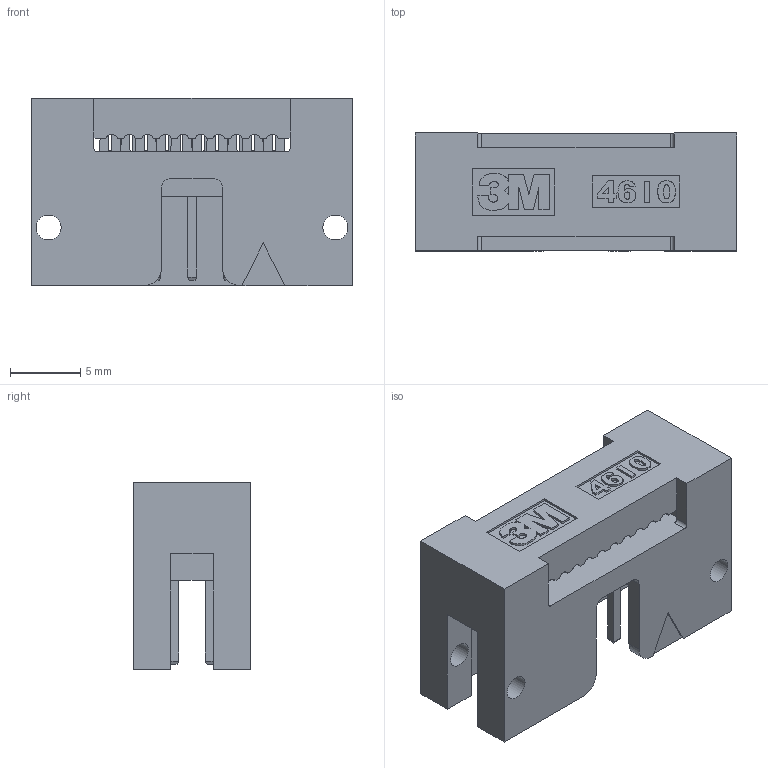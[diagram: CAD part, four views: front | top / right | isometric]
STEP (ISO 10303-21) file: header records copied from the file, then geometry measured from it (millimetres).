
FILE_DESCRIPTION(/* description */ (''),/* implementation_level */ '2;1');
FILE_NAME(/* name */ '4610-6051',/* time_stamp */ '2007-08-01T09:30:04-05:00',/* author */ (''),/* organization */ (''),/* preprocessor_version */ 'ST-DEVELOPER v9',/* originating_system */ 'UGS - NX 3.0',/* authorisation */ '');
FILE_SCHEMA (('CONFIG_CONTROL_DESIGN'));
Length unit declared in the file: inch
Products named in the file (1): a0p71DEB3hud
Bounding box: 22.86 x 8.38 x 13.34 mm (x, y, z)
Volume: 1420.6 mm3; surface area: 1946.9 mm2
Topology: 1 solids, 1 shells, 350 faces, 1033 edges, 674 vertices
Faces by surface type: plane 265, extrusion 53, cylinder 32
Full cylindrical faces by diameter (mm): 1.778 x4
Entity records: 12059 total; most frequent: CARTESIAN_POINT 2726, ORIENTED_EDGE 2058, DIRECTION 1657, EDGE_CURVE 1029, VECTOR 853, LINE 800, VERTEX_POINT 674, AXIS2_PLACEMENT_3D 402
